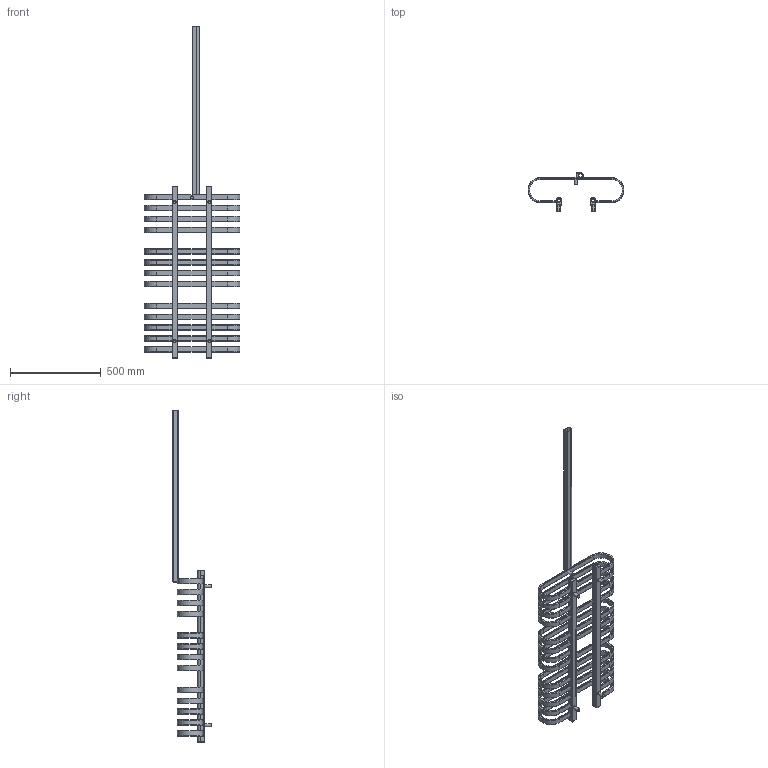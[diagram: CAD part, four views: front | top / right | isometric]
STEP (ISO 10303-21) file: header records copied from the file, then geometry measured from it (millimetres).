
FILE_DESCRIPTION( ( 'Unknown' ), '1' );
FILE_NAME( 'D:/RYSUNKI/RYSUNKI SOLID/SEJWAL/NOWE/2021/MALTA/MALTA.stp', 'Unknown', ( 'Unknown' ), ( 'Unknown' ), 'XStep 1.0', 'Unknown', ' ' );
FILE_SCHEMA( ( 'automotive_design' ) );
Length unit declared in the file: millimetre
Products named in the file (5): Assem1; profil-C; Profil_glowny_lew; Dekiel_G1_2; MOCOWANIE
Bounding box: 530.16 x 212 x 1834 mm (x, y, z)
Volume: 4585034.9 mm3; surface area: 1772164.5 mm2
Topology: 27 solids, 27 shells, 596 faces, 1383 edges, 849 vertices
Faces by surface type: cylinder 255, plane 219, torus 122
Full cylindrical faces by diameter (mm): 15 x5, 18 x5, 18.631 x5, 20 x5
Entity records: 1994 total; most frequent: DIRECTION 370, CARTESIAN_POINT 316, ORIENTED_EDGE 276, AXIS2_PLACEMENT_3D 144, EDGE_CURVE 138, VERTEX_POINT 90, LINE 82, VECTOR 82
